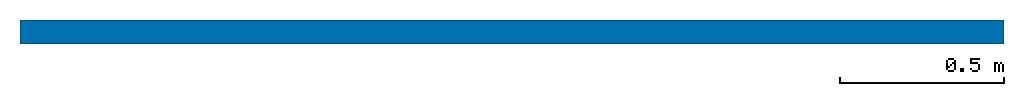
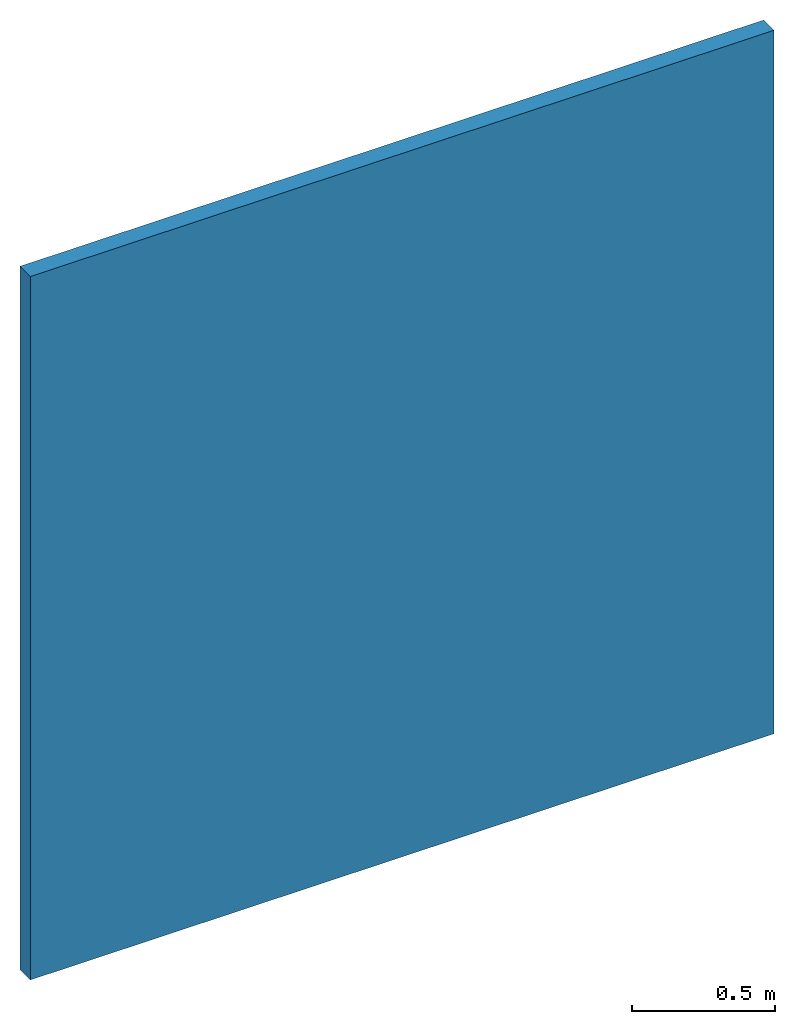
# One storey: 1 wall.
"""IFC2X3 building model written with IfcOpenShell, lengths in millimetres."""

import ifcopenshell
import ifcopenshell.guid

model = None  # the IFC model being written
_history = None  # IfcOwnerHistory: only IFC2X3 demands one
_inside = {}  # id of a spatial element -> (the spatial element, [elements in it])
_under = {}  # id of a project, library or spatial element -> (it, [spatial elements below it])
_declared = {}  # id of a project -> (the project, [libraries it declares])
_typed = {}  # id of a type object -> (the type object, [elements of that type])
_made_of = {}  # id of a material, layer set ... -> (it, [elements and type objects made of it])


def new_model(schema):
    """Start an empty IFC model of exactly this schema.

    Asked for "IFC4X3", IfcOpenShell would pick the latest addendum, in which some entities
    have other attributes; the version numbers below select the first issue.
    IFC2X3 requires an IfcOwnerHistory on every rooted entity: one is made here for all.
    """
    global model, _history
    if schema == "IFC4X3":
        model = ifcopenshell.file(schema_version=(4, 3, 0, 0))
    else:
        model = ifcopenshell.file(schema=schema)
    _inside.clear()
    _under.clear()
    _declared.clear()
    _typed.clear()
    _made_of.clear()
    _history = None
    if model.schema == "IFC2X3":
        org = make("IfcOrganization", Name="unknown")
        user = make(
            "IfcPersonAndOrganization",
            ThePerson=make("IfcPerson", FamilyName="unknown"),
            TheOrganization=org,
        )
        app = make(
            "IfcApplication",
            ApplicationDeveloper=org,
            Version="unknown",
            ApplicationFullName="unknown",
            ApplicationIdentifier="unknown",
        )
        _history = make(
            "IfcOwnerHistory",
            OwningUser=user,
            OwningApplication=app,
            ChangeAction="ADDED",
            CreationDate=0,
        )
    return model


def make(cls, **values):
    """One entity of the class cls with the attributes given. An attribute that is None is left unset."""
    return model.create_entity(
        cls, **{name: value for name, value in values.items() if value is not None}
    )


def entity(cls, *values):
    """Any entity or typed value of the class cls, its attributes in the order of the schema. None: left unset."""
    e = model.create_entity(cls)
    for i, value in enumerate(values):
        if value is not None:
            e[i] = value
    return e


def rooted(cls, **values):
    """An entity with a GlobalId (a new one), such as an element, a storey or a relation."""
    return make(cls, GlobalId=ifcopenshell.guid.new(), OwnerHistory=_history, **values)


def si_unit(unit_type, name, prefix=None):
    """IfcSIUnit, for example si_unit("LENGTHUNIT", "METRE", prefix="MILLI")."""
    return make("IfcSIUnit", UnitType=unit_type, Prefix=prefix, Name=name)


def converted_unit(unit_type, name, factor, base, dimensions=None, offset=None):
    """IfcConversionBasedUnit, such as the inch: factor (a typed value) times the base unit."""
    return make(
        "IfcConversionBasedUnit"
        if offset is None
        else "IfcConversionBasedUnitWithOffset",
        ConversionOffset=offset,
        Dimensions=None
        if dimensions is None
        else entity("IfcDimensionalExponents", *dimensions),
        UnitType=unit_type,
        Name=name,
        ConversionFactor=make(
            "IfcMeasureWithUnit", ValueComponent=factor, UnitComponent=base
        ),
    )


def derived_unit(unit_type, elements):
    """IfcDerivedUnit: a product of units, each with its exponent."""
    return make(
        "IfcDerivedUnit",
        Elements=[
            make("IfcDerivedUnitElement", Unit=unit, Exponent=power)
            for unit, power in elements
        ],
        UnitType=unit_type,
    )


def assignment(units):
    """IfcUnitAssignment: the units of a project."""
    return None if units is None else make("IfcUnitAssignment", Units=units)


def point(xyz):
    """IfcCartesianPoint."""
    return None if xyz is None else make("IfcCartesianPoint", Coordinates=xyz)


def direction(xyz):
    """IfcDirection."""
    return None if xyz is None else make("IfcDirection", DirectionRatios=xyz)


def frame(location, z_axis=None, x_axis=None):
    """IfcAxis2Placement3D, a coordinate frame: its origin and axes. An axis left out is left unset."""
    return make(
        "IfcAxis2Placement3D",
        Location=point(location),
        Axis=direction(z_axis),
        RefDirection=direction(x_axis),
    )


def frame_2d(location, x_axis=None):
    """IfcAxis2Placement2D, a coordinate frame in the plane: its origin and x axis."""
    return make(
        "IfcAxis2Placement2D", Location=point(location), RefDirection=direction(x_axis)
    )


def origin():
    """The frame at (0, 0, 0) with its axes left unset."""
    return frame((0.0, 0.0, 0.0))


def place(relative_to, where):
    """IfcLocalPlacement: puts the frame where relative to a parent placement (None: the world)."""
    return make(
        "IfcLocalPlacement", PlacementRelTo=relative_to, RelativePlacement=where
    )


def context(
    kind, dimensions, precision=None, world=None, true_north=None, identifier=None
):
    """IfcGeometricRepresentationContext, for example the 3D "Model" context."""
    return make(
        "IfcGeometricRepresentationContext",
        ContextIdentifier=identifier,
        ContextType=kind,
        CoordinateSpaceDimension=dimensions,
        Precision=precision,
        WorldCoordinateSystem=world,
        TrueNorth=true_north,
    )


def subcontext(parent, identifier, kind, view, scale=None):
    """IfcGeometricRepresentationSubContext, for example "Body" below "Model"."""
    return make(
        "IfcGeometricRepresentationSubContext",
        ContextIdentifier=identifier,
        ContextType=kind,
        ParentContext=parent,
        TargetScale=scale,
        TargetView=view,
    )


def project(units=None, contexts=None):
    """IfcProject with its units and contexts."""
    return rooted(
        "IfcProject",
        Name="project",
        RepresentationContexts=contexts,
        UnitsInContext=assignment(units),
    )


def spatial(cls, under=None, at=None, **own):
    """A site, building, storey or space (cls), placed at a placement, below another one or the project."""
    s = rooted(cls, ObjectPlacement=at, **own)
    if under is not None:
        _under.setdefault(under.id(), (under, []))[1].append(s)
    return s


def profile(cls, at=None, kind="AREA", **sizes):
    """A parametric profile (cls). Its sizes go by their IFC names, for example OverallWidth=200.0."""
    return make(cls, ProfileType=kind, Position=at, **sizes)


def rectangle(**sizes):
    """IfcRectangleProfileDef."""
    return profile("IfcRectangleProfileDef", **sizes)


def extrude(swept, where, along, depth):
    """IfcExtrudedAreaSolid: the profile swept, set in the frame where, extruded along a direction by depth."""
    return make(
        "IfcExtrudedAreaSolid",
        SweptArea=swept,
        Position=where,
        ExtrudedDirection=direction(along),
        Depth=depth,
    )


def shape(context_of_items, identifier, shape_type, items):
    """IfcShapeRepresentation: the items that make up one representation, for example the "Body"."""
    return make(
        "IfcShapeRepresentation",
        ContextOfItems=context_of_items,
        RepresentationIdentifier=identifier,
        RepresentationType=shape_type,
        Items=items,
    )


def material(Name=None, Category=None):
    """IfcMaterial."""
    return make("IfcMaterial", Name=Name, Category=Category)


def layer(
    of_material, thickness, ventilated=None, Name=None, Category=None, Priority=None
):
    """IfcMaterialLayer: one layer of a wall or slab, of a material (None: an air gap)."""
    return make(
        "IfcMaterialLayer",
        Material=of_material,
        LayerThickness=thickness,
        IsVentilated=ventilated,
        Name=Name,
        Category=Category,
        Priority=Priority,
    )


def layer_set(layers, Name=None):
    """IfcMaterialLayerSet."""
    return make("IfcMaterialLayerSet", MaterialLayers=layers, LayerSetName=Name)


def layer_usage(for_layer_set, set_direction, sense, offset, extent=None):
    """IfcMaterialLayerSetUsage: how a layer set lies in its element."""
    return make(
        "IfcMaterialLayerSetUsage",
        ForLayerSet=for_layer_set,
        LayerSetDirection=set_direction,
        DirectionSense=sense,
        OffsetFromReferenceLine=offset,
        ReferenceExtent=extent,
    )


def made_of(thing, what):
    """Note that an element or type object is made of a material, layer set ...; save() writes the relation."""
    if what is not None:
        _made_of.setdefault(what.id(), (what, []))[1].append(thing)
    return thing


def type_object(cls, material=None, **own):
    """A type object (cls), such as IfcWallType, which elements share."""
    return made_of(rooted(cls, **own), material)


def element(
    cls,
    number,
    at=None,
    inside=None,
    cuts=None,
    type_object=None,
    material=None,
    context=None,
    identifier="Body",
    shape_type=None,
    held_by="IfcProductDefinitionShape",
    body=None,
    shapes=None,
    **own,
):
    """One element of the class cls, such as IfcWall. Its Tag is "e" and its number.

    at: its placement. inside: the storey or other place that contains it. cuts: it is an
    opening in that element (IfcRelVoidsElement). A single representation is given by context,
    identifier, shape_type and body (its items); several are given by shapes. held_by: the class
    of the entity that holds the representations. save() writes the other relations.
    """
    e = rooted(cls, Tag="e%d" % number, ObjectPlacement=at, **own)
    if body is not None:
        shapes = [shape(context, identifier, shape_type, body)]
    if shapes is not None:
        e.Representation = make(held_by, Representations=shapes)
    if inside is not None:
        _inside.setdefault(inside.id(), (inside, []))[1].append(e)
    if cuts is not None:
        rooted(
            "IfcRelVoidsElement", RelatingBuildingElement=cuts, RelatedOpeningElement=e
        )
    if type_object is not None:
        _typed.setdefault(type_object.id(), (type_object, []))[1].append(e)
    return made_of(e, material)


def aggregate(whole, parts):
    """IfcRelAggregates: a whole, such as a stair, and the parts it consists of."""
    return rooted("IfcRelAggregates", RelatingObject=whole, RelatedObjects=parts)


def save(model, path):
    """Write the relations noted so far, then the file.

    IfcRelAggregates (storeys below a building ...), IfcRelContainedInSpatialStructure (elements
    in a storey), IfcRelDefinesByType, IfcRelAssociatesMaterial and IfcRelDeclares: one each for
    every whole, place, type object, material and project.
    """
    for whole, parts in _under.values():
        aggregate(whole, parts)
    for where, things in _inside.values():
        rooted(
            "IfcRelContainedInSpatialStructure",
            RelatedElements=things,
            RelatingStructure=where,
        )
    for kind, things in _typed.values():
        rooted("IfcRelDefinesByType", RelatedObjects=things, RelatingType=kind)
    for what, things in _made_of.values():
        rooted("IfcRelAssociatesMaterial", RelatedObjects=things, RelatingMaterial=what)
    for by, libraries in _declared.values():
        rooted("IfcRelDeclares", RelatingContext=by, RelatedDefinitions=libraries)
    model.write(path)


model = new_model("IFC2X3")

# Units and contexts
model_context = context("Model", 3, precision=0.01, world=origin(), true_north=direction((6.12303176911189e-17, 1.0)))
body_context = subcontext(model_context, "Body", "Model", "MODEL_VIEW")
ifc_project = project(units=[si_unit("LENGTHUNIT", "METRE", prefix="MILLI"), si_unit("AREAUNIT", "SQUARE_METRE"), si_unit("VOLUMEUNIT", "CUBIC_METRE"), converted_unit("PLANEANGLEUNIT", "DEGREE", entity("IfcRatioMeasure", 0.0174532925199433), si_unit("PLANEANGLEUNIT", "RADIAN"), dimensions=[0, 0, 0, 0, 0, 0, 0]), si_unit("MASSUNIT", "GRAM", prefix="KILO"), si_unit("TIMEUNIT", "SECOND"), si_unit("FREQUENCYUNIT", "HERTZ"), si_unit("THERMODYNAMICTEMPERATUREUNIT", "DEGREE_CELSIUS"), derived_unit("THERMALTRANSMITTANCEUNIT", [(si_unit("MASSUNIT", "GRAM", prefix="KILO"), 1), (si_unit("THERMODYNAMICTEMPERATUREUNIT", "KELVIN"), -1), (si_unit("TIMEUNIT", "SECOND"), -3)]), derived_unit("VOLUMETRICFLOWRATEUNIT", [(si_unit("LENGTHUNIT", "METRE"), 3), (si_unit("TIMEUNIT", "SECOND"), -1)]), si_unit("ELECTRICCURRENTUNIT", "AMPERE"), si_unit("ELECTRICVOLTAGEUNIT", "VOLT"), si_unit("POWERUNIT", "WATT"), si_unit("FORCEUNIT", "NEWTON", prefix="KILO"), si_unit("ILLUMINANCEUNIT", "LUX"), si_unit("LUMINOUSFLUXUNIT", "LUMEN"), si_unit("LUMINOUSINTENSITYUNIT", "CANDELA"), derived_unit("USERDEFINED", [(si_unit("MASSUNIT", "GRAM", prefix="KILO"), -1), (si_unit("LENGTHUNIT", "METRE"), -2), (si_unit("TIMEUNIT", "SECOND"), 3), (si_unit("LUMINOUSFLUXUNIT", "LUMEN"), 1)]), derived_unit("LINEARVELOCITYUNIT", [(si_unit("LENGTHUNIT", "METRE"), 1), (si_unit("TIMEUNIT", "SECOND"), -1)]), si_unit("PRESSUREUNIT", "PASCAL"), derived_unit("USERDEFINED", [(si_unit("LENGTHUNIT", "METRE"), -2), (si_unit("MASSUNIT", "GRAM", prefix="KILO"), 1), (si_unit("TIMEUNIT", "SECOND"), -2)])], contexts=[model_context])

# Site, building, storey
site_placement = place(None, origin())
site = spatial("IfcSite", under=ifc_project, at=site_placement, Name="Default", CompositionType="ELEMENT")
building_placement = place(site_placement, origin())
building = spatial("IfcBuilding", under=site, at=building_placement, CompositionType="ELEMENT")
storey_placement = place(building_placement, origin())
storey = spatial("IfcBuildingStorey", under=building, at=storey_placement, Name="Уровень 1", CompositionType="ELEMENT", Elevation=0.0)

# Wall
ifc_material_1 = material(Name="КНАУФ-суперлист")
ifc_layer_1 = layer(ifc_material_1, 12.5)
ifc_material_2 = material(Name="Luft")
ifc_layer_2 = layer(ifc_material_2, 10.0)
ifc_material_3 = material(Name="КНАУФ-профиль+мин.вата 50@600mm")
ifc_layer_3 = layer(ifc_material_3, 50.0)
ifc_layer_set = layer_set([ifc_layer_1, ifc_layer_2, ifc_layer_3], Name="Базовая стена:Облицовка КНАУФ M682 Применение внутри здания ПП60/27 ПН28х27 с однослойной облицовкой ГВЛВ 12.5")
ifc_layer_usage = layer_usage(ifc_layer_set, "AXIS2", "NEGATIVE", 36.25)
wall_type = type_object("IfcWallType", Name="Базовая стена:Облицовка КНАУФ M682 Применение внутри здания ПП60/27 ПН28х27 с однослойной облицовкой ГВЛВ 12.5", PredefinedType="STANDARD", material=ifc_layer_set)
wall_placement = place(storey_placement, frame((2657.49022302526, -1646.26510549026, 0.0)))
element("IfcWallStandardCase", 1, at=wall_placement, inside=storey, type_object=wall_type, material=ifc_layer_usage, Name="Базовая стена:Облицовка КНАУФ M682 Применение внутри здания ПП60/27 ПН28х27 с однослойной облицовкой ГВЛВ 12.5", ObjectType="Базовая стена:Облицовка КНАУФ M682 Применение внутри здания ПП60/27 ПН28х27 с однослойной облицовкой ГВЛВ 12.5", context=body_context, shape_type="SweptSolid", body=[
    extrude(rectangle(XDim=3000.0, YDim=72.4999999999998, at=frame_2d((1500.0, 0.0), x_axis=(-1.0, 0.0))), origin(), (0.0, 0.0, 1.0), 3000.0),
])

save(model, "model.ifc")
